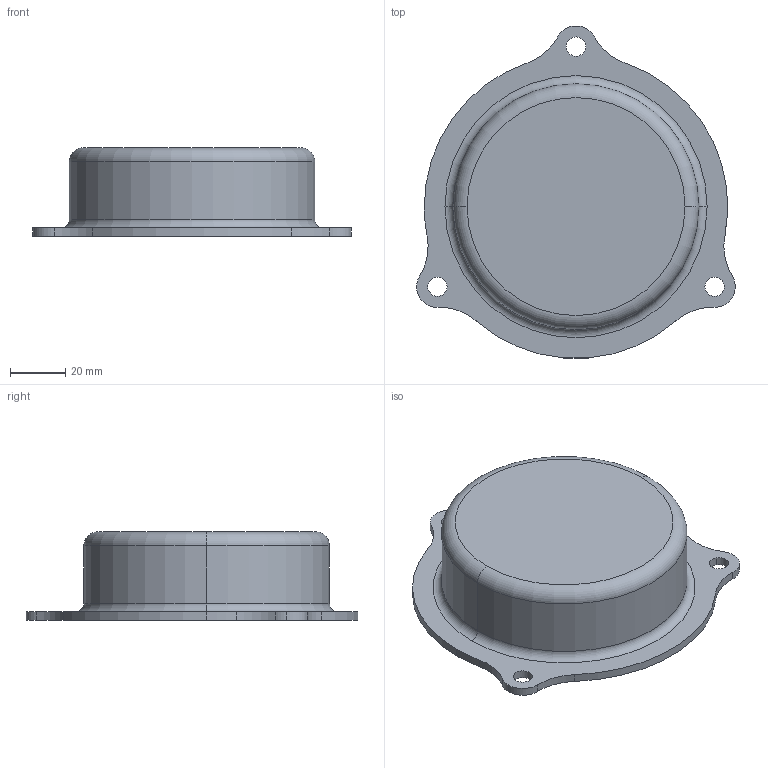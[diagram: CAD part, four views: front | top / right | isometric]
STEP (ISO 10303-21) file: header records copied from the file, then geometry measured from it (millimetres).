
FILE_DESCRIPTION (( 'STEP AP203' ), '1' );
FILE_NAME ('PEYD083.STEP', '2017-05-03T06:44:41', ( 'user' ), ( '' ), 'SwSTEP 2.0', 'SolidWorks 2012', '' );
FILE_SCHEMA (( 'CONFIG_CONTROL_DESIGN' ));
Length unit declared in the file: millimetre
Products named in the file (1): PEYD083
Bounding box: 115.45 x 120.3 x 32 mm (x, y, z)
Volume: 38004.3 mm3; surface area: 35369.4 mm2
Topology: 1 solids, 1 shells, 37 faces, 91 edges, 58 vertices
Faces by surface type: cylinder 25, torus 8, plane 4
Entity records: 1216 total; most frequent: DIRECTION 233, CARTESIAN_POINT 187, ORIENTED_EDGE 182, AXIS2_PLACEMENT_3D 104, EDGE_CURVE 91, CIRCLE 66, VERTEX_POINT 58, EDGE_LOOP 45
